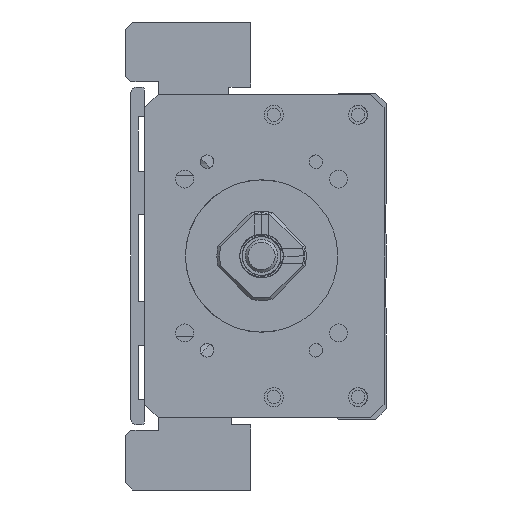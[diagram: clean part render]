
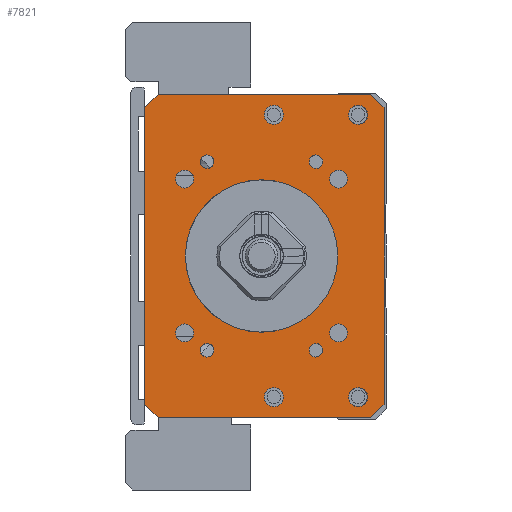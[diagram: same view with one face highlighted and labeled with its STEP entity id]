
A CAD part, left-side view. The second image highlights one B-rep face of the part: STEP entity #7821.
In plain terms, the highlighted planar face has unit normal (-1, 0, 0).
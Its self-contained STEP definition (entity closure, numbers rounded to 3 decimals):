
#7821=ADVANCED_FACE('',(#13005,#13006,#13007,#13008,#13009,#13010,#13011,
#13012,#13013,#13014,#13015,#13016,#13017,#13018),#8979,.F.);
#8979=PLANE('',#25856);
#9801=LINE('',#33475,#11416);
#9803=LINE('',#33499,#11418);
#9804=LINE('',#33501,#11419);
#9805=LINE('',#33503,#11420);
#9806=LINE('',#33505,#11421);
#9807=LINE('',#33507,#11422);
#9808=LINE('',#33509,#11423);
#9809=LINE('',#33511,#11424);
#11416=VECTOR('',#28001,1.);
#11418=VECTOR('',#28025,1.);
#11419=VECTOR('',#28026,1.);
#11420=VECTOR('',#28027,1.);
#11421=VECTOR('',#28028,1.);
#11422=VECTOR('',#28029,1.);
#11423=VECTOR('',#28030,1.);
#11424=VECTOR('',#28031,1.);
#13005=FACE_BOUND('',#13949,.T.);
#13006=FACE_BOUND('',#13950,.T.);
#13007=FACE_BOUND('',#13951,.T.);
#13008=FACE_BOUND('',#13952,.T.);
#13009=FACE_BOUND('',#13953,.T.);
#13010=FACE_BOUND('',#13954,.T.);
#13011=FACE_BOUND('',#13955,.T.);
#13012=FACE_BOUND('',#13956,.T.);
#13013=FACE_BOUND('',#13957,.T.);
#13014=FACE_BOUND('',#13958,.T.);
#13015=FACE_BOUND('',#13959,.T.);
#13016=FACE_BOUND('',#13960,.T.);
#13017=FACE_BOUND('',#13961,.T.);
#13018=FACE_BOUND('',#13962,.T.);
#13949=EDGE_LOOP('',(#15878));
#13950=EDGE_LOOP('',(#15879));
#13951=EDGE_LOOP('',(#15880));
#13952=EDGE_LOOP('',(#15881));
#13953=EDGE_LOOP('',(#15882));
#13954=EDGE_LOOP('',(#15883));
#13955=EDGE_LOOP('',(#15884));
#13956=EDGE_LOOP('',(#15885));
#13957=EDGE_LOOP('',(#15886));
#13958=EDGE_LOOP('',(#15887,#15888,#15889,#15890,#15891,#15892,#15893,#15894));
#13959=EDGE_LOOP('',(#15895));
#13960=EDGE_LOOP('',(#15896));
#13961=EDGE_LOOP('',(#15897));
#13962=EDGE_LOOP('',(#15898));
#15878=ORIENTED_EDGE('',*,*,#22677,.F.);
#15879=ORIENTED_EDGE('',*,*,#22678,.F.);
#15880=ORIENTED_EDGE('',*,*,#22679,.F.);
#15881=ORIENTED_EDGE('',*,*,#22680,.F.);
#15882=ORIENTED_EDGE('',*,*,#22681,.F.);
#15883=ORIENTED_EDGE('',*,*,#22682,.T.);
#15884=ORIENTED_EDGE('',*,*,#22683,.F.);
#15885=ORIENTED_EDGE('',*,*,#22684,.F.);
#15886=ORIENTED_EDGE('',*,*,#22685,.F.);
#15887=ORIENTED_EDGE('',*,*,#22674,.T.);
#15888=ORIENTED_EDGE('',*,*,#22686,.T.);
#15889=ORIENTED_EDGE('',*,*,#22687,.F.);
#15890=ORIENTED_EDGE('',*,*,#22688,.T.);
#15891=ORIENTED_EDGE('',*,*,#22689,.F.);
#15892=ORIENTED_EDGE('',*,*,#22690,.T.);
#15893=ORIENTED_EDGE('',*,*,#22691,.T.);
#15894=ORIENTED_EDGE('',*,*,#22692,.T.);
#15895=ORIENTED_EDGE('',*,*,#22693,.F.);
#15896=ORIENTED_EDGE('',*,*,#22694,.F.);
#15897=ORIENTED_EDGE('',*,*,#22695,.F.);
#15898=ORIENTED_EDGE('',*,*,#22654,.F.);
#20774=VERTEX_POINT('',#33414);
#20794=VERTEX_POINT('',#33474);
#20795=VERTEX_POINT('',#33476);
#20797=VERTEX_POINT('',#33482);
#20798=VERTEX_POINT('',#33484);
#20799=VERTEX_POINT('',#33486);
#20800=VERTEX_POINT('',#33488);
#20801=VERTEX_POINT('',#33490);
#20802=VERTEX_POINT('',#33492);
#20803=VERTEX_POINT('',#33494);
#20804=VERTEX_POINT('',#33496);
#20805=VERTEX_POINT('',#33498);
#20806=VERTEX_POINT('',#33500);
#20807=VERTEX_POINT('',#33502);
#20808=VERTEX_POINT('',#33504);
#20809=VERTEX_POINT('',#33506);
#20810=VERTEX_POINT('',#33508);
#20811=VERTEX_POINT('',#33510);
#20812=VERTEX_POINT('',#33513);
#20813=VERTEX_POINT('',#33515);
#20814=VERTEX_POINT('',#33517);
#22654=EDGE_CURVE('',#20774,#20774,#25096,.T.);
#22674=EDGE_CURVE('',#20795,#20794,#9801,.T.);
#22677=EDGE_CURVE('',#20797,#20797,#25105,.T.);
#22678=EDGE_CURVE('',#20798,#20798,#25106,.T.);
#22679=EDGE_CURVE('',#20799,#20799,#25107,.T.);
#22680=EDGE_CURVE('',#20800,#20800,#25108,.T.);
#22681=EDGE_CURVE('',#20801,#20801,#25109,.T.);
#22682=EDGE_CURVE('',#20802,#20802,#25110,.T.);
#22683=EDGE_CURVE('',#20803,#20803,#25111,.T.);
#22684=EDGE_CURVE('',#20804,#20804,#25112,.T.);
#22685=EDGE_CURVE('',#20805,#20805,#25113,.T.);
#22686=EDGE_CURVE('',#20794,#20806,#9803,.T.);
#22687=EDGE_CURVE('',#20807,#20806,#9804,.T.);
#22688=EDGE_CURVE('',#20807,#20808,#9805,.T.);
#22689=EDGE_CURVE('',#20809,#20808,#9806,.T.);
#22690=EDGE_CURVE('',#20809,#20810,#9807,.T.);
#22691=EDGE_CURVE('',#20810,#20811,#9808,.T.);
#22692=EDGE_CURVE('',#20811,#20795,#9809,.T.);
#22693=EDGE_CURVE('',#20812,#20812,#25114,.T.);
#22694=EDGE_CURVE('',#20813,#20813,#25115,.T.);
#22695=EDGE_CURVE('',#20814,#20814,#25116,.T.);
#25096=CIRCLE('',#25833,14.);
#25105=CIRCLE('',#25844,1.65);
#25106=CIRCLE('',#25845,1.65);
#25107=CIRCLE('',#25846,1.65);
#25108=CIRCLE('',#25847,1.65);
#25109=CIRCLE('',#25848,1.25);
#25110=CIRCLE('',#25849,1.75);
#25111=CIRCLE('',#25850,1.25);
#25112=CIRCLE('',#25851,1.75);
#25113=CIRCLE('',#25852,1.25);
#25114=CIRCLE('',#25853,1.75);
#25115=CIRCLE('',#25854,1.75);
#25116=CIRCLE('',#25855,1.25);
#25833=AXIS2_PLACEMENT_3D('',#33413,#27975,#27976);
#25844=AXIS2_PLACEMENT_3D('',#33481,#28007,#28008);
#25845=AXIS2_PLACEMENT_3D('',#33483,#28009,#28010);
#25846=AXIS2_PLACEMENT_3D('',#33485,#28011,#28012);
#25847=AXIS2_PLACEMENT_3D('',#33487,#28013,#28014);
#25848=AXIS2_PLACEMENT_3D('',#33489,#28015,#28016);
#25849=AXIS2_PLACEMENT_3D('',#33491,#28017,#28018);
#25850=AXIS2_PLACEMENT_3D('',#33493,#28019,#28020);
#25851=AXIS2_PLACEMENT_3D('',#33495,#28021,#28022);
#25852=AXIS2_PLACEMENT_3D('',#33497,#28023,#28024);
#25853=AXIS2_PLACEMENT_3D('',#33512,#28032,#28033);
#25854=AXIS2_PLACEMENT_3D('',#33514,#28034,#28035);
#25855=AXIS2_PLACEMENT_3D('',#33516,#28036,#28037);
#25856=AXIS2_PLACEMENT_3D('',#33518,#28038,#28039);
#27975=DIRECTION('',(-1.,0.,0.));
#27976=DIRECTION('',(0.,1.,0.));
#28001=DIRECTION('',(0.,0.,-1.));
#28007=DIRECTION('',(-1.,0.,0.));
#28008=DIRECTION('',(0.,0.,1.));
#28009=DIRECTION('',(-1.,0.,0.));
#28010=DIRECTION('',(0.,0.,1.));
#28011=DIRECTION('',(-1.,0.,0.));
#28012=DIRECTION('',(0.,0.,1.));
#28013=DIRECTION('',(-1.,0.,0.));
#28014=DIRECTION('',(0.,0.,1.));
#28015=DIRECTION('',(-1.,0.,0.));
#28016=DIRECTION('',(0.,1.,0.));
#28017=DIRECTION('',(1.,0.,0.));
#28018=DIRECTION('',(0.,0.,1.));
#28019=DIRECTION('',(-1.,0.,0.));
#28020=DIRECTION('',(0.,1.,0.));
#28021=DIRECTION('',(-1.,0.,0.));
#28022=DIRECTION('',(0.,0.,1.));
#28023=DIRECTION('',(-1.,0.,0.));
#28024=DIRECTION('',(0.,1.,0.));
#28025=DIRECTION('',(0.,-0.707,-0.707));
#28026=DIRECTION('',(0.,1.,0.));
#28027=DIRECTION('',(0.,-0.707,0.707));
#28028=DIRECTION('',(0.,0.,-1.));
#28029=DIRECTION('',(0.,0.707,0.707));
#28030=DIRECTION('',(0.,1.,0.));
#28031=DIRECTION('',(0.,0.707,-0.707));
#28032=DIRECTION('',(-1.,0.,0.));
#28033=DIRECTION('',(0.,0.,1.));
#28034=DIRECTION('',(-1.,0.,0.));
#28035=DIRECTION('',(0.,0.,1.));
#28036=DIRECTION('',(-1.,0.,0.));
#28037=DIRECTION('',(0.,1.,0.));
#28038=DIRECTION('',(1.,0.,0.));
#28039=DIRECTION('',(0.,1.,0.));
#33413=CARTESIAN_POINT('',(-211.,0.,0.));
#33414=CARTESIAN_POINT('',(-211.,14.,0.));
#33474=CARTESIAN_POINT('',(-211.,21.499,-27.25));
#33475=CARTESIAN_POINT('',(-211.,21.499,29.75));
#33476=CARTESIAN_POINT('',(-211.,21.499,27.25));
#33481=CARTESIAN_POINT('',(-211.,14.142,14.142));
#33482=CARTESIAN_POINT('',(-211.,14.142,15.792));
#33483=CARTESIAN_POINT('',(-211.,-14.142,14.142));
#33484=CARTESIAN_POINT('',(-211.,-14.142,15.792));
#33485=CARTESIAN_POINT('',(-211.,14.142,-14.142));
#33486=CARTESIAN_POINT('',(-211.,14.142,-12.492));
#33487=CARTESIAN_POINT('',(-211.,-14.142,-14.142));
#33488=CARTESIAN_POINT('',(-211.,-14.142,-12.492));
#33489=CARTESIAN_POINT('',(-211.,-10.,-17.321));
#33490=CARTESIAN_POINT('',(-211.,-8.75,-17.321));
#33491=CARTESIAN_POINT('',(-211.,-2.25,-25.936));
#33492=CARTESIAN_POINT('',(-211.,-2.25,-24.186));
#33493=CARTESIAN_POINT('',(-211.,10.,17.321));
#33494=CARTESIAN_POINT('',(-211.,11.25,17.321));
#33495=CARTESIAN_POINT('',(-211.,-2.25,25.936));
#33496=CARTESIAN_POINT('',(-211.,-2.25,27.686));
#33497=CARTESIAN_POINT('',(-211.,10.,-17.321));
#33498=CARTESIAN_POINT('',(-211.,11.25,-17.321));
#33499=CARTESIAN_POINT('',(-211.,18.999,-29.75));
#33500=CARTESIAN_POINT('',(-211.,18.999,-29.75));
#33501=CARTESIAN_POINT('',(-211.,-22.501,-29.75));
#33502=CARTESIAN_POINT('',(-211.,-20.001,-29.75));
#33503=CARTESIAN_POINT('',(-211.,-22.501,-27.25));
#33504=CARTESIAN_POINT('',(-211.,-22.501,-27.25));
#33505=CARTESIAN_POINT('',(-211.,-22.501,29.75));
#33506=CARTESIAN_POINT('',(-211.,-22.501,27.25));
#33507=CARTESIAN_POINT('',(-211.,-22.501,27.25));
#33508=CARTESIAN_POINT('',(-211.,-20.001,29.75));
#33509=CARTESIAN_POINT('',(-211.,-22.501,29.75));
#33510=CARTESIAN_POINT('',(-211.,18.999,29.75));
#33511=CARTESIAN_POINT('',(-211.,18.999,29.75));
#33512=CARTESIAN_POINT('',(-211.,-17.75,25.936));
#33513=CARTESIAN_POINT('',(-211.,-17.75,27.686));
#33514=CARTESIAN_POINT('',(-211.,-17.75,-25.936));
#33515=CARTESIAN_POINT('',(-211.,-17.75,-24.186));
#33516=CARTESIAN_POINT('',(-211.,-10.,17.321));
#33517=CARTESIAN_POINT('',(-211.,-8.75,17.321));
#33518=CARTESIAN_POINT('',(-211.,-22.501,29.75));
